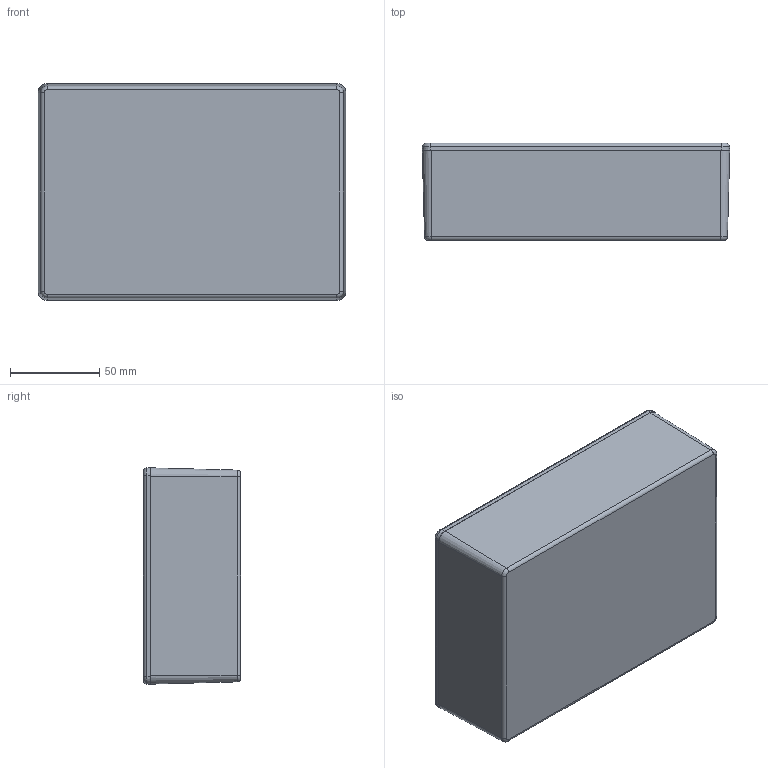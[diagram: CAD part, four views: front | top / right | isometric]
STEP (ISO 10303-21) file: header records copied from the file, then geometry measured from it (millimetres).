
FILE_DESCRIPTION (( 'STEP AP203' ), '1' );
FILE_NAME ('SE-409-0-0.STEP', '2020-02-07T11:12:56', ( '' ), ( '' ), 'SwSTEP 2.0', 'SolidWorks 2020', '' );
FILE_SCHEMA (( 'CONFIG_CONTROL_DESIGN' ));
Length unit declared in the file: millimetre
Products named in the file (3): SE-409-0-0; SE-409-P-2; SE-409-P-1
Assembly tree (2 placements, depth 2):
  SE-409-0-0
    SE-409-P-2
    SE-409-P-1
Bounding box: 172 x 54.3 x 121.2 mm (x, y, z)
Volume: 161876.7 mm3; surface area: 142843.2 mm2
Topology: 2 solids, 2 shells, 252 faces, 653 edges, 414 vertices
Faces by surface type: plane 75, cone 70, cylinder 63, torus 32, bspline 12
Entity records: 8480 total; most frequent: CARTESIAN_POINT 1840, DIRECTION 1417, ORIENTED_EDGE 1306, EDGE_CURVE 653, AXIS2_PLACEMENT_3D 567, VERTEX_POINT 414, CIRCLE 322, VECTOR 283
